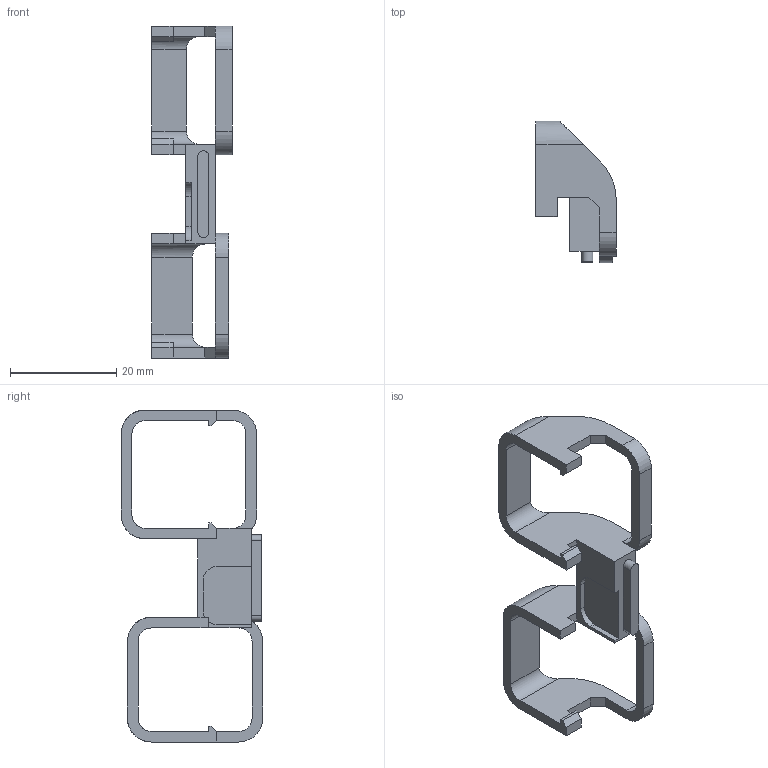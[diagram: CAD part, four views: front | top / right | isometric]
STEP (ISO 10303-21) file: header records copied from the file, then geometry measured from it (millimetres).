
FILE_DESCRIPTION(/* description */ ('STEP AP242','CAx-IF Rec.Pracs.---Representation and Presentation of Product Manufacturing Information (PMI)---4.0---2014-10-13','CAx-IF Rec.Pracs.---3D Tessellated Geometry---0.4---2014-09-14','2;1'),/* implementation_level */ '2;1');
FILE_NAME(/* name */ '687e6a00f344454910d47960',/* time_stamp */ '2025-07-21T16:25:36Z',/* author */ (''),/* organization */ (''),/* preprocessor_version */ 'ST-DEVELOPER v20',/* originating_system */ 'ONSHAPE BY PTC INC, 1.201',/* authorisation */ ' ');
FILE_SCHEMA (('AP242_MANAGED_MODEL_BASED_3D_ENGINEERING_MIM_LF { 1 0 10303 442 1 1 4 }'));
Length unit declared in the file: metre
Products named in the file (1): Port Frame
Bounding box: 15.15 x 26.65 x 62.6 mm (x, y, z)
Volume: 3239.5 mm3; surface area: 3771.2 mm2
Topology: 1 solids, 1 shells, 83 faces, 248 edges, 164 vertices
Faces by surface type: plane 59, cylinder 24
Entity records: 2810 total; most frequent: ORIENTED_EDGE 496, CARTESIAN_POINT 496, DIRECTION 466, EDGE_CURVE 248, LINE 198, VECTOR 198, VERTEX_POINT 164, AXIS2_PLACEMENT_3D 134
